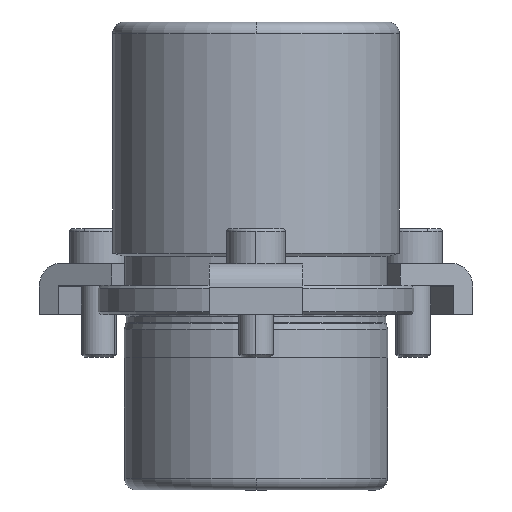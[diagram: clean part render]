
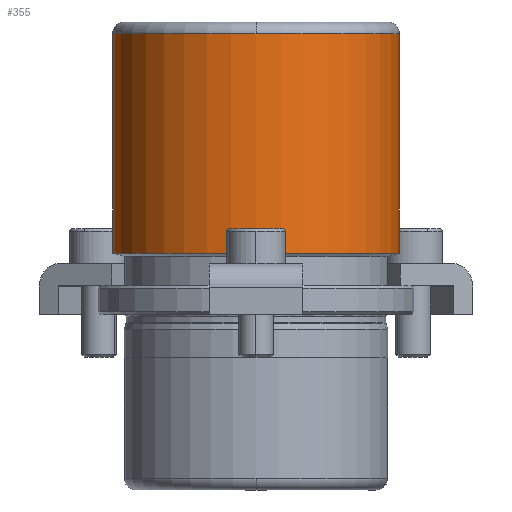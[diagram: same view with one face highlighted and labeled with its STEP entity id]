
A CAD part, front view. The second image highlights one B-rep face of the part: STEP entity #355.
In plain terms, the highlighted cylindrical face has radius 24.5 mm (diameter 49 mm), a partial arc.
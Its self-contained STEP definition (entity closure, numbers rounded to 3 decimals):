
#269=CARTESIAN_POINT('',(0.0,-24.5,48.));
#270=VERTEX_POINT('',#269);
#296=CARTESIAN_POINT('',(-24.5,0.,48.));
#297=VERTEX_POINT('',#296);
#305=CARTESIAN_POINT('',(0.0,0.,48.));
#306=DIRECTION('',(0.0,0.0,1.0));
#307=DIRECTION('',(1.0,0.0,0.0));
#308=AXIS2_PLACEMENT_3D('',#305,#306,#307);
#309=CIRCLE('',#308,24.5);
#310=EDGE_CURVE('',#297,#270,#309,.T.);
#315=CARTESIAN_POINT('',(0.0,0.,29.25));
#316=DIRECTION('',(0.0,0.,1.0));
#317=DIRECTION('',(1.0,0.0,0.0));
#318=AXIS2_PLACEMENT_3D('',#315,#316,#317);
#319=CYLINDRICAL_SURFACE('',#318,24.5);
#320=CARTESIAN_POINT('',(24.5,0.,48.));
#321=VERTEX_POINT('',#320);
#322=CARTESIAN_POINT('',(24.5,0.,10.5));
#323=VERTEX_POINT('',#322);
#324=CARTESIAN_POINT('',(24.5,0.,48.));
#325=DIRECTION('',(0.0,0.0,-1.0));
#326=VECTOR('',#325,37.5);
#327=LINE('',#324,#326);
#328=EDGE_CURVE('',#321,#323,#327,.T.);
#329=ORIENTED_EDGE('',*,*,#328,.F.);
#330=CARTESIAN_POINT('',(0.0,0.,48.));
#331=DIRECTION('',(0.0,0.0,1.0));
#332=DIRECTION('',(1.0,0.0,0.0));
#333=AXIS2_PLACEMENT_3D('',#330,#331,#332);
#334=CIRCLE('',#333,24.5);
#335=EDGE_CURVE('',#270,#321,#334,.T.);
#336=ORIENTED_EDGE('',*,*,#335,.F.);
#337=ORIENTED_EDGE('',*,*,#310,.F.);
#338=CARTESIAN_POINT('',(-24.5,0.,10.5));
#339=VERTEX_POINT('',#338);
#340=CARTESIAN_POINT('',(-24.5,0.,48.));
#341=DIRECTION('',(0.0,0.0,-1.0));
#342=VECTOR('',#341,37.5);
#343=LINE('',#340,#342);
#344=EDGE_CURVE('',#297,#339,#343,.T.);
#345=ORIENTED_EDGE('',*,*,#344,.T.);
#346=CARTESIAN_POINT('',(0.0,0.,10.5));
#347=DIRECTION('',(0.0,0.0,1.0));
#348=DIRECTION('',(1.0,0.0,0.0));
#349=AXIS2_PLACEMENT_3D('',#346,#347,#348);
#350=CIRCLE('',#349,24.5);
#351=EDGE_CURVE('',#339,#323,#350,.T.);
#352=ORIENTED_EDGE('',*,*,#351,.T.);
#353=EDGE_LOOP('',(#329,#336,#337,#345,#352));
#354=FACE_OUTER_BOUND('',#353,.T.);
#355=ADVANCED_FACE('',(#354),#319,.T.);
